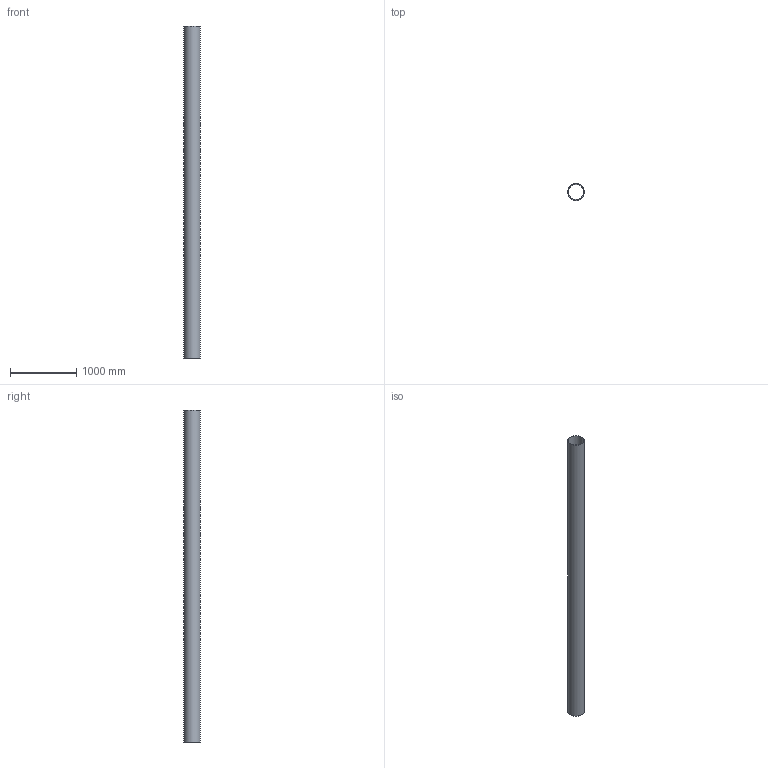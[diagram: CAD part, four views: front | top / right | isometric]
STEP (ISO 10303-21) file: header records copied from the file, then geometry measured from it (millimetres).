
FILE_DESCRIPTION(/* description */ (''),/* implementation_level */ '2;1');
FILE_NAME(/* name */ 'C:\Geberit-Teile\Export 2019\379.000.16.0\stp\371000.stp',/* time_stamp */ '2019-06-06T10:48:56+02:00',/* author */ ('JANAN'),/* organization */ (''),/* preprocessor_version */ 'ST-DEVELOPER v16.13',/* originating_system */ 'Autodesk Inventor 2018',/* authorisation */ '');
FILE_SCHEMA (('AUTOMOTIVE_DESIGN { 1 0 10303 214 3 1 1 }'));
Length unit declared in the file: millimetre
Products named in the file (1): Rohr PE-HD d250x7.8 L5000
Bounding box: 250 x 250 x 5000 mm (x, y, z)
Volume: 29674855.9 mm3; surface area: 7620807.3 mm2
Topology: 1 solids, 1 shells, 4 faces, 6 edges, 4 vertices
Faces by surface type: cylinder 2, plane 2
Full cylindrical faces by diameter (mm): 234.4 x1, 250 x1
Entity records: 131 total; most frequent: DIRECTION 18, CARTESIAN_POINT 13, AXIS2_PLACEMENT_3D 9, EDGE_LOOP 8, ORIENTED_EDGE 8, STYLED_ITEM 5, FACE_BOUND 4, FACE_OUTER_BOUND 4
